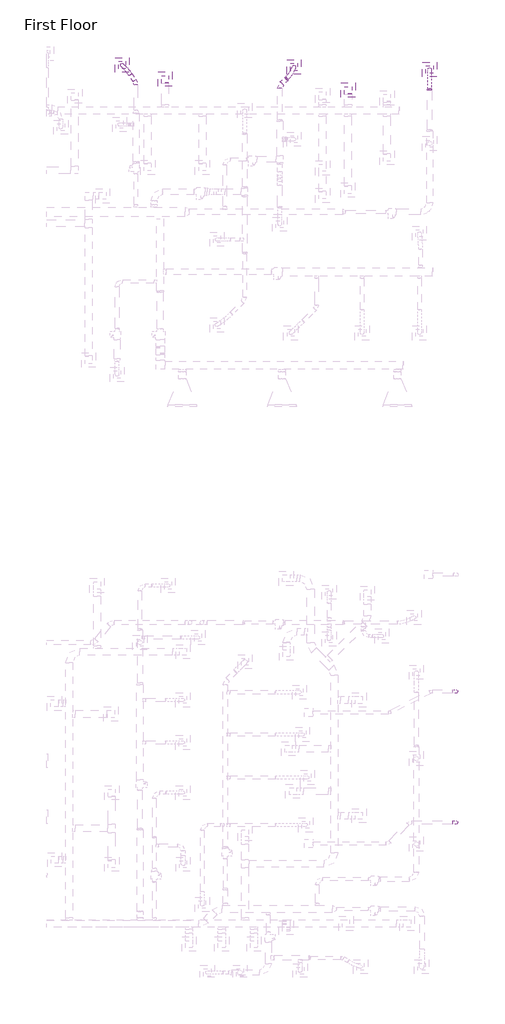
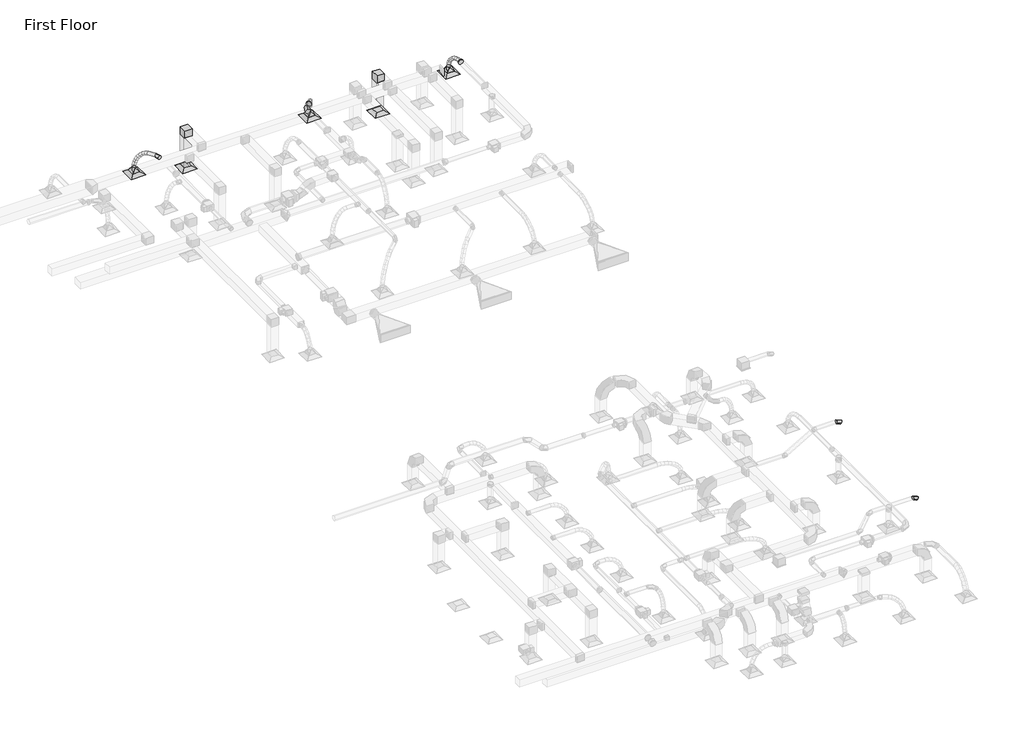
# One storey, part 60 of 61: 11 duct fittings, 7 duct segments, 5 air terminals.
"""IFC4 building model written with IfcOpenShell, lengths in millimetres."""

from ifc_helpers import new_model, si_unit, point, frame, frame_2d, origin, place, context, project, spatial, polyline, circle_curve, ellipse_curve, trimmed, segment, composite_curve, outline, extrude, transform, mapped, element, save
from ifc_brep_helpers import plane_surface, cylinder_surface, advanced_brep
from components import m_exhaust_grill_er_600_x_600_face_300_x_300_connection_ff221211, m_rectangular_elbow_mitered_standard_8eee5933, m_rectangular_to_round_transition_angle_45_degree_8f201c83, m_round_elbow_1_5_d_fa134dda, m_round_elbow_1_5_d_f3829448, m_round_elbow_2_d_e6cff9a0, m_round_transition_angle_45_degree_6d7b59ce

model = new_model("IFC4")

# Units and contexts
model_context = context("Model", 3, world=origin())
ifc_project = project(units=[si_unit("LENGTHUNIT", "METRE", prefix="MILLI")], contexts=[model_context])

# Site, building, storey
site = spatial("IfcSite", under=ifc_project)
building = spatial("IfcBuilding", under=site)
storey = spatial("IfcBuildingStorey", under=building, Name="First Floor", Elevation=0.0)

# Air terminals
placement = place(None, origin())
m_exhaust_grill_er_600_x_600_face_300_x_300_connection_shape = m_exhaust_grill_er_600_x_600_face_300_x_300_connection_ff221211(model_context)
element("IfcAirTerminal", 1, ObjectType="M_Return Register : RR-600 x 600 Face 300 x 300 Connection", at=placement, inside=storey, context=model_context, shape_type="MappedRepresentation", body=[
    mapped(m_exhaust_grill_er_600_x_600_face_300_x_300_connection_shape, transform((-3926.5709793, 48069.2175842, 2680.0), x_axis=(1.0, 0.0, 0.0), y_axis=(0.0, 1.0, 0.0), z_axis=(0.0, 0.0, 1.0))),
])
element("IfcAirTerminal", 2, ObjectType="M_Return Register : RR-600 x 600 Face 300 x 300 Connection", at=placement, inside=storey, context=model_context, shape_type="MappedRepresentation", body=[
    mapped(m_exhaust_grill_er_600_x_600_face_300_x_300_connection_shape, transform((-11624.3125098, 48530.9998671, 2680.0), x_axis=(1.0, 0.0, 0.0), y_axis=(0.0, 1.0, 0.0), z_axis=(0.0, 0.0, 1.0))),
])
element("IfcAirTerminal", 3, ObjectType="M_Supply Diffuser : SD-600 x 600 Face 300 x 300 Connection", at=placement, inside=storey, context=model_context, shape_type="MappedRepresentation", body=[
    mapped(m_exhaust_grill_er_600_x_600_face_300_x_300_connection_shape, transform((-500.5154255, 48936.722982, 2680.0), x_axis=(1.0, 0.0, 0.0), y_axis=(0.0, 1.0, 0.0), z_axis=(0.0, 0.0, 1.0))),
])
element("IfcAirTerminal", 4, ObjectType="M_Supply Diffuser : SD-600 x 600 Face 300 x 300 Connection", at=placement, inside=storey, context=model_context, shape_type="MappedRepresentation", body=[
    mapped(m_exhaust_grill_er_600_x_600_face_300_x_300_connection_shape, transform((-6203.7010885, 49042.3683623, 2680.0), x_axis=(1.0, 0.0, 0.0), y_axis=(0.0, 1.0, 0.0), z_axis=(0.0, 0.0, 1.0))),
])
element("IfcAirTerminal", 5, ObjectType="M_Supply Diffuser : SD-600 x 600 Face 300 x 300 Connection", at=placement, inside=storey, context=model_context, shape_type="MappedRepresentation", body=[
    mapped(m_exhaust_grill_er_600_x_600_face_300_x_300_connection_shape, transform((-13429.6025206, 49124.841699, 2680.0), x_axis=(1.0, 0.0, 0.0), y_axis=(0.0, 1.0, 0.0), z_axis=(0.0, 0.0, 1.0))),
])

# Duct fittings
m_rectangular_elbow_mitered_standard_shape = m_rectangular_elbow_mitered_standard_8eee5933(model_context)
element("IfcDuctFitting", 6, ObjectType="M_Rectangular Elbow - Mitered : Standard", at=placement, inside=storey, context=model_context, shape_type="MappedRepresentation", body=[
    mapped(m_rectangular_elbow_mitered_standard_shape, transform((-3926.5709793, 48069.2175842, 4259.5), x_axis=(0.0, 0.0, 1.0), y_axis=(0.0, -1.0, 0.0), z_axis=(1.0, 0.0, 0.0))),
])
element("IfcDuctFitting", 7, ObjectType="M_Rectangular Elbow - Mitered : Standard", at=placement, inside=storey, context=model_context, shape_type="MappedRepresentation", body=[
    mapped(m_rectangular_elbow_mitered_standard_shape, transform((-11624.3125098, 48530.9998671, 4259.5), x_axis=(0.0, 0.0, 1.0), y_axis=(0.0, -1.0, 0.0), z_axis=(1.0, 0.0, 0.0))),
])
m_rectangular_to_round_transition_angle_45_degree_shape = m_rectangular_to_round_transition_angle_45_degree_8f201c83(model_context)
element("IfcDuctFitting", 8, ObjectType="M_Rectangular to Round Transition - Angle : 45 Degree", at=placement, inside=storey, context=model_context, shape_type="MappedRepresentation", body=[
    mapped(m_rectangular_to_round_transition_angle_45_degree_shape, transform((-500.5154255, 48936.722982, 2781.6), x_axis=(0.0, 0.0, 1.0), y_axis=(1.0, 0.0, 0.0), z_axis=(0.0, 1.0, 0.0))),
])
element("IfcDuctFitting", 9, ObjectType="M_Rectangular to Round Transition - Angle : 45 Degree", at=placement, inside=storey, context=model_context, shape_type="MappedRepresentation", body=[
    mapped(m_rectangular_to_round_transition_angle_45_degree_shape, transform((-6203.7010885, 49042.3683623, 2781.6), x_axis=(0.0, 0.0, 1.0), y_axis=(1.0, 0.0, 0.0), z_axis=(0.0, 1.0, 0.0))),
])
element("IfcDuctFitting", 10, ObjectType="M_Rectangular to Round Transition - Angle : 45 Degree", at=placement, inside=storey, context=model_context, shape_type="MappedRepresentation", body=[
    mapped(m_rectangular_to_round_transition_angle_45_degree_shape, transform((-13429.6025206, 49124.841699, 2781.6), x_axis=(0.0, 0.0, 1.0), y_axis=(1.0, 0.0, 0.0), z_axis=(0.0, 1.0, 0.0))),
])
m_round_elbow_1_5_d_shape = m_round_elbow_1_5_d_fa134dda(model_context)
element("IfcDuctFitting", 11, ObjectType="M_Round Elbow : 1.5 D", at=placement, inside=storey, context=model_context, shape_type="MappedRepresentation", body=[
    mapped(m_round_elbow_1_5_d_shape, transform((563.5965989, 22803.0823669, 2879.6), x_axis=(1.0000000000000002, 0.0, 0.0), y_axis=(0.0, 0.0, -1.0000000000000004), z_axis=(0.0, 1.0000000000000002, 0.0))),
])
element("IfcDuctFitting", 12, ObjectType="M_Round Elbow : 1.5 D", at=placement, inside=storey, context=model_context, shape_type="MappedRepresentation", body=[
    mapped(m_round_elbow_1_5_d_shape, transform((563.5965989, 17303.0823669, 2879.6), x_axis=(1.0000000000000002, 0.0, 0.0), y_axis=(0.0, 0.0, -1.0000000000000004), z_axis=(0.0, 1.0000000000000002, 0.0))),
])
m_round_elbow_1_5_d_2_shape = m_round_elbow_1_5_d_f3829448(model_context)
element("IfcDuctFitting", 13, ObjectType="M_Round Elbow : 1.5 D", at=placement, inside=storey, context=model_context, shape_type="MappedRepresentation", body=[
    mapped(m_round_elbow_1_5_d_2_shape, transform((-6801.5698472, 48261.7292765, 3669.1), x_axis=(-0.7071067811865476, -0.7071067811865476, 0.0), y_axis=(0.7071067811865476, -0.7071067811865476, 0.0), z_axis=(0.0, 0.0, 1.0))),
])
m_round_elbow_2_d_shape = m_round_elbow_2_d_e6cff9a0(model_context)
element("IfcDuctFitting", 14, ObjectType="M_Round Elbow : 2 D", at=placement, inside=storey, context=model_context, shape_type="MappedRepresentation", body=[
    mapped(m_round_elbow_2_d_shape, transform((-12852.4099417, 48392.0581212, 3669.2), x_axis=(0.0, 1.0, 0.0), y_axis=(-1.0, 0.0, 0.0), z_axis=(0.0, 0.0, 1.0))),
])
m_round_transition_angle_45_degree_shape = m_round_transition_angle_45_degree_6d7b59ce(model_context)
element("IfcDuctFitting", 15, ObjectType="M_Round Transition - Angle : 45 Degree", at=placement, inside=storey, context=model_context, shape_type="MappedRepresentation", body=[
    mapped(m_round_transition_angle_45_degree_shape, transform((-500.5154255, 48069.2175842, 3669.1), x_axis=(0.0, 1.0, 0.0), y_axis=(-1.0, 0.0, 0.0), z_axis=(0.0, 0.0, 1.0))),
])
element("IfcDuctFitting", 16, ObjectType="M_Round Transition - Angle : 45 Degree", at=placement, inside=storey, context=model_context, shape_type="MappedRepresentation", body=[
    mapped(m_round_transition_angle_45_degree_shape, transform((-6532.2992565, 48530.9998671, 3669.1), x_axis=(0.7071067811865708, 0.7071067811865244, 0.0), y_axis=(-0.7071067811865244, 0.7071067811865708, 0.0), z_axis=(0.0, 0.0, 1.0))),
])

# Duct segments
element("IfcDuctSegment", 17, ObjectType="Flex - Round", at=placement, inside=storey, context=model_context, shape_type="AdvancedBrep", body=[
    advanced_brep(
    [(-575.5154255, 48129.5729232, 3669.1), (-500.5154255, 48121.0600943, 3594.5846879), (-425.5154255, 48129.5729232, 3669.1), (-500.5154255, 48138.0857522, 3743.6153121), (-575.5154255, 48266.9094216, 3653.4103104), (-500.5154255, 48251.1377364, 3579.7242695), (-425.5154255, 48266.9094216, 3653.4103104), (-500.5154255, 48282.6811068, 3727.0963514), (-575.5154255, 48936.722982, 2962.6660172), (-500.5154255, 49010.8878006, 2973.8275441), (-425.5154255, 48936.722982, 2962.6660172), (-500.5154255, 48862.5581635, 2951.5044903), (-575.5154255, 48406.5290462, 3608.9993323), (-500.5154255, 48377.9312426, 3539.3930936), (-425.5154255, 48406.5290462, 3608.9993323), (-500.5154255, 48435.1268498, 3678.6055709), (-575.5154255, 48542.0841281, 3539.8542015), (-500.5154255, 48502.9435502, 3475.6257141), (-425.5154255, 48542.0841281, 3539.8542015), (-500.5154255, 48581.2247059, 3604.082689), (-575.5154255, 48667.2269982, 3449.9620542), (-500.5154255, 48618.7587348, 3392.4337941), (-425.5154255, 48667.2269982, 3449.9620542), (-500.5154255, 48715.6952617, 3507.4903142), (-575.5154255, 48775.6099877, 3343.3100261), (-500.5154255, 48718.3603682, 3294.4228769), (-425.5154255, 48775.6099877, 3343.3100261), (-500.5154255, 48832.8596072, 3392.1971753), (-575.5154255, 48860.8854274, 3223.8852533), (-500.5154255, 48795.2672989, 3186.7178594), (-425.5154255, 48860.8854274, 3223.8852533), (-500.5154255, 48926.503556, 3261.0526471), (-575.5154255, 48916.7056486, 3095.6748716), (-500.5154255, 48844.0071783, 3074.7699235), (-425.5154255, 48916.7056486, 3095.6748716), (-500.5154255, 48989.4041188, 3116.5798197)],
    [
        (0, 1, circle_curve(frame((-500.5154255, 48129.5729232, 3669.1), z_axis=(0.0, -0.9935374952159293, 0.11350438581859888), x_axis=(-1.0, 0.0, 0.0)), 75.0)),
        (1, 2, circle_curve(frame((-500.5154255, 48129.5729232, 3669.1), z_axis=(0.0, -0.9935374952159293, 0.11350438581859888), x_axis=(-1.0, 0.0, 0.0)), 75.0)),
        (2, 3, circle_curve(frame((-500.5154255, 48129.5729232, 3669.1), z_axis=(0.0, -0.9935374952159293, 0.11350438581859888), x_axis=(-1.0, 0.0, 0.0)), 75.0)),
        (3, 0, circle_curve(frame((-500.5154255, 48129.5729232, 3669.1), z_axis=(0.0, -0.9935374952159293, 0.11350438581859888), x_axis=(-1.0, 0.0, 0.0)), 75.0)),
        (0, 4),
        (4, 5, ellipse_curve(frame((-500.5154255, 48266.9094216, 3653.4103104), z_axis=(0.0, -0.9778518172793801, 0.2092984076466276), x_axis=(0.0, -0.2092984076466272, -0.9778518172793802)), 75.3550176, 75.0)),
        (5, 1),
        (5, 6, ellipse_curve(frame((-500.5154255, 48266.9094216, 3653.4103104), z_axis=(0.0, -0.9778518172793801, 0.2092984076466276), x_axis=(0.0, -0.2092984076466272, -0.9778518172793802)), 75.3550176, 75.0)),
        (6, 2),
        (6, 7, ellipse_curve(frame((-500.5154255, 48266.9094216, 3653.4103104), z_axis=(0.0, -0.9778518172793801, 0.2092984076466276), x_axis=(0.0, -0.2092984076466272, -0.9778518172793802)), 75.3550176, 75.0)),
        (7, 3),
        (7, 4, ellipse_curve(frame((-500.5154255, 48266.9094216, 3653.4103104), z_axis=(0.0, -0.9778518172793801, 0.2092984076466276), x_axis=(0.0, -0.2092984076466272, -0.9778518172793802)), 75.3550176, 75.0)),
        (8, 9, circle_curve(frame((-500.5154255, 48936.722982, 2962.6660172), z_axis=(0.0, 0.14882035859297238, -0.9888642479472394), x_axis=(-1.0, 0.0, 0.0)), 75.0)),
        (9, 10, circle_curve(frame((-500.5154255, 48936.722982, 2962.6660172), z_axis=(0.0, 0.14882035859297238, -0.9888642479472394), x_axis=(-1.0, 0.0, 0.0)), 75.0)),
        (10, 11, circle_curve(frame((-500.5154255, 48936.722982, 2962.6660172), z_axis=(0.0, 0.14882035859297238, -0.9888642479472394), x_axis=(-1.0, 0.0, 0.0)), 75.0)),
        (11, 8, circle_curve(frame((-500.5154255, 48936.722982, 2962.6660172), z_axis=(0.0, 0.14882035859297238, -0.9888642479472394), x_axis=(-1.0, 0.0, 0.0)), 75.0)),
        (4, 12),
        (12, 13, ellipse_curve(frame((-500.5154255, 48406.5290462, 3608.9993323), z_axis=(0.0, -0.9249753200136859, 0.38002717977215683), x_axis=(0.0, -0.3800271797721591, -0.924975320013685)), 75.2519955, 75.0)),
        (13, 5),
        (13, 14, ellipse_curve(frame((-500.5154255, 48406.5290462, 3608.9993323), z_axis=(0.0, -0.9249753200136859, 0.38002717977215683), x_axis=(0.0, -0.3800271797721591, -0.924975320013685)), 75.2519955, 75.0)),
        (14, 6),
        (14, 15, ellipse_curve(frame((-500.5154255, 48406.5290462, 3608.9993323), z_axis=(0.0, -0.9249753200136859, 0.38002717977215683), x_axis=(0.0, -0.3800271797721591, -0.924975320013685)), 75.2519955, 75.0)),
        (15, 7),
        (15, 12, ellipse_curve(frame((-500.5154255, 48406.5290462, 3608.9993323), z_axis=(0.0, -0.9249753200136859, 0.38002717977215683), x_axis=(0.0, -0.3800271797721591, -0.924975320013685)), 75.2519955, 75.0)),
        (12, 16),
        (16, 17, ellipse_curve(frame((-500.5154255, 48542.0841281, 3539.8542015), z_axis=(0.0, -0.8539328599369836, 0.5203831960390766), x_axis=(0.0, -0.5203831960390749, -0.8539328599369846)), 75.214915, 75.0)),
        (17, 13),
        (17, 18, ellipse_curve(frame((-500.5154255, 48542.0841281, 3539.8542015), z_axis=(0.0, -0.8539328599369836, 0.5203831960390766), x_axis=(0.0, -0.5203831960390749, -0.8539328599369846)), 75.214915, 75.0)),
        (18, 14),
        (18, 19, ellipse_curve(frame((-500.5154255, 48542.0841281, 3539.8542015), z_axis=(0.0, -0.8539328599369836, 0.5203831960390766), x_axis=(0.0, -0.5203831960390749, -0.8539328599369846)), 75.214915, 75.0)),
        (19, 15),
        (19, 16, ellipse_curve(frame((-500.5154255, 48542.0841281, 3539.8542015), z_axis=(0.0, -0.8539328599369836, 0.5203831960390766), x_axis=(0.0, -0.5203831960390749, -0.8539328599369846)), 75.214915, 75.0)),
        (16, 20),
        (20, 21, ellipse_curve(frame((-500.5154255, 48667.2269982, 3449.9620542), z_axis=(0.0, -0.7647578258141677, 0.6443178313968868), x_axis=(0.0, -0.6443178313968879, -0.7647578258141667)), 75.2241535, 75.0)),
        (21, 17),
        (21, 22, ellipse_curve(frame((-500.5154255, 48667.2269982, 3449.9620542), z_axis=(0.0, -0.7647578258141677, 0.6443178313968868), x_axis=(0.0, -0.6443178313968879, -0.7647578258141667)), 75.2241535, 75.0)),
        (22, 18),
        (22, 23, ellipse_curve(frame((-500.5154255, 48667.2269982, 3449.9620542), z_axis=(0.0, -0.7647578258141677, 0.6443178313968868), x_axis=(0.0, -0.6443178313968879, -0.7647578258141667)), 75.2241535, 75.0)),
        (23, 19),
        (23, 20, ellipse_curve(frame((-500.5154255, 48667.2269982, 3449.9620542), z_axis=(0.0, -0.7647578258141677, 0.6443178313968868), x_axis=(0.0, -0.6443178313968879, -0.7647578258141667)), 75.2241535, 75.0)),
        (20, 24),
        (24, 25, ellipse_curve(frame((-500.5154255, 48775.6099877, 3343.3100261), z_axis=(0.0, -0.6493816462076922, 0.760462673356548), x_axis=(0.0, -0.7604626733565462, -0.6493816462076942)), 75.2826161, 75.0)),
        (25, 21),
        (25, 26, ellipse_curve(frame((-500.5154255, 48775.6099877, 3343.3100261), z_axis=(0.0, -0.6493816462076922, 0.760462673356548), x_axis=(0.0, -0.7604626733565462, -0.6493816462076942)), 75.2826161, 75.0)),
        (26, 22),
        (26, 27, ellipse_curve(frame((-500.5154255, 48775.6099877, 3343.3100261), z_axis=(0.0, -0.6493816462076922, 0.760462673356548), x_axis=(0.0, -0.7604626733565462, -0.6493816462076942)), 75.2826161, 75.0)),
        (27, 23),
        (27, 24, ellipse_curve(frame((-500.5154255, 48775.6099877, 3343.3100261), z_axis=(0.0, -0.6493816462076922, 0.760462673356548), x_axis=(0.0, -0.7604626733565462, -0.6493816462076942)), 75.2826161, 75.0)),
        (24, 28),
        (28, 29, ellipse_curve(frame((-500.5154255, 48860.8854274, 3223.8852533), z_axis=(0.0, -0.49284983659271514, 0.8701143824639), x_axis=(0.0, -0.8701143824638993, -0.4928498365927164)), 75.4132214, 75.0)),
        (29, 25),
        (29, 30, ellipse_curve(frame((-500.5154255, 48860.8854274, 3223.8852533), z_axis=(0.0, -0.49284983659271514, 0.8701143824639), x_axis=(0.0, -0.8701143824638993, -0.4928498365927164)), 75.4132214, 75.0)),
        (30, 26),
        (30, 31, ellipse_curve(frame((-500.5154255, 48860.8854274, 3223.8852533), z_axis=(0.0, -0.49284983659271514, 0.8701143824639), x_axis=(0.0, -0.8701143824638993, -0.4928498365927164)), 75.4132214, 75.0)),
        (31, 27),
        (31, 28, ellipse_curve(frame((-500.5154255, 48860.8854274, 3223.8852533), z_axis=(0.0, -0.49284983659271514, 0.8701143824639), x_axis=(0.0, -0.8701143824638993, -0.4928498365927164)), 75.4132214, 75.0)),
        (28, 32),
        (32, 33, ellipse_curve(frame((-500.5154255, 48916.7056486, 3095.6748716), z_axis=(0.0, -0.27635795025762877, 0.9610547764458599), x_axis=(0.0, -0.9610547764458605, -0.27635795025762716)), 75.6444607, 75.0)),
        (33, 29),
        (33, 34, ellipse_curve(frame((-500.5154255, 48916.7056486, 3095.6748716), z_axis=(0.0, -0.27635795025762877, 0.9610547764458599), x_axis=(0.0, -0.9610547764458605, -0.27635795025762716)), 75.6444607, 75.0)),
        (34, 30),
        (34, 35, ellipse_curve(frame((-500.5154255, 48916.7056486, 3095.6748716), z_axis=(0.0, -0.27635795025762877, 0.9610547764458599), x_axis=(0.0, -0.9610547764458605, -0.27635795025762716)), 75.6444607, 75.0)),
        (35, 31),
        (35, 32, ellipse_curve(frame((-500.5154255, 48916.7056486, 3095.6748716), z_axis=(0.0, -0.27635795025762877, 0.9610547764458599), x_axis=(0.0, -0.9610547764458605, -0.27635795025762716)), 75.6444607, 75.0)),
        (32, 8),
        (11, 33),
        (10, 34),
        (9, 35),
    ],
    [
        plane_surface(frame((-500.5154255, 48138.0857522, 3743.6153121), z_axis=(0.0, -0.9935374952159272, 0.1135043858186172), x_axis=(1.0, 0.0, 0.0))),
        cylinder_surface(frame((-500.5154255, 48129.5729232, 3669.1), z_axis=(0.0, -0.9935374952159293, 0.11350438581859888), x_axis=(-1.0, 0.0, 0.0)), 75.0),
        plane_surface(frame((-500.5154255, 49010.8878006, 2973.8275441), z_axis=(0.0, 0.1488203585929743, -0.988864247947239), x_axis=(1.0, 0.0, 0.0))),
        cylinder_surface(frame((-500.5154255, 48266.9094216, 3653.4103104), z_axis=(0.0, -0.9529522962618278, 0.3031203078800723), x_axis=(-1.0, 0.0, 0.0)), 75.0),
        cylinder_surface(frame((-500.5154255, 48406.5290462, 3608.9993323), z_axis=(0.0, -0.8908034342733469, 0.4543888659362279), x_axis=(-1.0, 0.0, 0.0)), 75.0),
        cylinder_surface(frame((-500.5154255, 48542.0841281, 3539.8542015), z_axis=(0.0, -0.81218232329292, 0.5834036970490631), x_axis=(-1.0, 0.0, 0.0)), 75.0),
        cylinder_surface(frame((-500.5154255, 48667.2269982, 3449.9620542), z_axis=(0.0, -0.71277566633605, 0.7013920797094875), x_axis=(-1.0, 0.0, 0.0)), 75.0),
        cylinder_surface(frame((-500.5154255, 48775.6099877, 3343.3100261), z_axis=(0.0, -0.5811119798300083, 0.8138236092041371), x_axis=(-1.0, 0.0, 0.0)), 75.0),
        cylinder_surface(frame((-500.5154255, 48860.8854274, 3223.8852533), z_axis=(0.0, -0.39918662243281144, 0.9168696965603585), x_axis=(-1.0, 0.0, 0.0)), 75.0),
        cylinder_surface(frame((-500.5154255, 48916.7056486, 3095.6748716), z_axis=(0.0, -0.14882035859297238, 0.9888642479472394), x_axis=(-1.0, 0.0, 0.0)), 75.0),
    ],
    [
        (0, [[1, 2, 3, 4]]),
        (1, [[-1, 5, 6, 7]]),
        (1, [[-2, -7, 8, 9]]),
        (1, [[-3, -9, 10, 11]]),
        (1, [[-4, -11, 12, -5]]),
        (2, [[13, 14, 15, 16]]),
        (3, [[-6, 17, 18, 19]]),
        (3, [[-8, -19, 20, 21]]),
        (3, [[-10, -21, 22, 23]]),
        (3, [[-12, -23, 24, -17]]),
        (4, [[-18, 25, 26, 27]]),
        (4, [[-20, -27, 28, 29]]),
        (4, [[-22, -29, 30, 31]]),
        (4, [[-24, -31, 32, -25]]),
        (5, [[-26, 33, 34, 35]]),
        (5, [[-28, -35, 36, 37]]),
        (5, [[-30, -37, 38, 39]]),
        (5, [[-32, -39, 40, -33]]),
        (6, [[-34, 41, 42, 43]]),
        (6, [[-36, -43, 44, 45]]),
        (6, [[-38, -45, 46, 47]]),
        (6, [[-40, -47, 48, -41]]),
        (7, [[-42, 49, 50, 51]]),
        (7, [[-44, -51, 52, 53]]),
        (7, [[-46, -53, 54, 55]]),
        (7, [[-48, -55, 56, -49]]),
        (8, [[-50, 57, 58, 59]]),
        (8, [[-52, -59, 60, 61]]),
        (8, [[-54, -61, 62, 63]]),
        (8, [[-56, -63, 64, -57]]),
        (9, [[-58, 65, -16, 66]]),
        (9, [[-60, -66, -15, 67]]),
        (9, [[-62, -67, -14, 68]]),
        (9, [[-64, -68, -13, -65]]),
    ],
),
])
element("IfcDuctSegment", 18, ObjectType="Flex - Round", at=placement, inside=storey, context=model_context, shape_type="AdvancedBrep", body=[
    advanced_brep(
    [(-6545.2947974, 48623.9318265, 3669.1), (-6497.8863457, 48564.5215889, 3595.1212031), (-6433.9483766, 48523.4232469, 3669.1), (-6481.3568282, 48582.8334844, 3743.0787969), (-6474.5837423, 48702.2676554, 3651.505113), (-6432.4322385, 48637.0336132, 3578.8343918), (-6358.9965973, 48606.4570773, 3650.4499023), (-6401.1481011, 48671.6911195, 3723.1206236), (-6265.9078415, 49084.2073875, 2964.8605217), (-6161.8698842, 49104.1735472, 2970.1003608), (-6141.4943355, 49000.529337, 2960.4715126), (-6245.5322928, 48980.5631774, 2955.2316735), (-6416.616207, 48779.9722109, 3603.5371022), (-6382.2766218, 48704.2664166, 3537.3307267), (-6295.3463827, 48691.7791737, 3597.7794865), (-6329.6859679, 48767.4849681, 3663.985862), (-6368.4644851, 48856.5991073, 3529.1739832), (-6339.1583971, 48772.8831889, 3470.7410899), (-6244.5004272, 48772.6935753, 3519.2555276), (-6273.8065152, 48856.4094937, 3577.6884209), (-6330.0759611, 48928.1008031, 3433.9504871), (-6304.0867401, 48838.2069546, 3383.7451484), (-6205.0863336, 48846.1054766, 3421.4880856), (-6231.0755546, 48935.9993251, 3471.6934243), (-6301.1452105, 48990.4881285, 3323.801142), (-6277.5009321, 48895.5375601, 3282.5238087), (-6175.9845143, 48908.8617007, 3310.6874231), (-6199.6287926, 49003.8122691, 3351.9647564), (-6281.175868, 49039.9145186, 3204.6698546), (-6259.2867338, 48940.6197693, 3173.8632005), (-6156.266322, 48957.6664657, 3193.0544244), (-6178.1554562, 49056.9612151, 3223.8610784), (-6269.5906835, 49072.570507, 3082.3258028), (-6248.9716954, 48969.695506, 3064.9323851), (-6145.0839947, 48989.1868913, 3074.9647023), (-6165.7029828, 49092.0618924, 3092.35812)],
    [
        (0, 1, circle_curve(frame((-6489.621587, 48573.6775367, 3669.1), z_axis=(-0.6609336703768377, -0.7322021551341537, 0.16445877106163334), x_axis=(-0.7423094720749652, 0.6700571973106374, 0.0)), 75.0)),
        (1, 2, circle_curve(frame((-6489.621587, 48573.6775367, 3669.1), z_axis=(-0.6609336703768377, -0.7322021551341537, 0.16445877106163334), x_axis=(-0.7423094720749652, 0.6700571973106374, 0.0)), 75.0)),
        (2, 3, circle_curve(frame((-6489.621587, 48573.6775367, 3669.1), z_axis=(-0.6609336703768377, -0.7322021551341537, 0.16445877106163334), x_axis=(-0.7423094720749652, 0.6700571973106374, 0.0)), 75.0)),
        (3, 0, circle_curve(frame((-6489.621587, 48573.6775367, 3669.1), z_axis=(-0.6609336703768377, -0.7322021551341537, 0.16445877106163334), x_axis=(-0.7423094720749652, 0.6700571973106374, 0.0)), 75.0)),
        (0, 4),
        (4, 5, ellipse_curve(frame((-6416.7901698, 48654.3623663, 3650.9775077), z_axis=(-0.6055638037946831, -0.7339478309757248, 0.30759236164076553), x_axis=(-0.4084382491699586, -0.04508211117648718, -0.9116719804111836)), 75.8938817, 75.0)),
        (5, 1),
        (5, 6, ellipse_curve(frame((-6416.7901698, 48654.3623663, 3650.9775077), z_axis=(-0.6055638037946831, -0.7339478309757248, 0.30759236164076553), x_axis=(-0.4084382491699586, -0.04508211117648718, -0.9116719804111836)), 75.8938817, 75.0)),
        (6, 2),
        (6, 7, ellipse_curve(frame((-6416.7901698, 48654.3623663, 3650.9775077), z_axis=(-0.6055638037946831, -0.7339478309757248, 0.30759236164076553), x_axis=(-0.4084382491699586, -0.04508211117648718, -0.9116719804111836)), 75.8938817, 75.0)),
        (7, 3),
        (7, 4, ellipse_curve(frame((-6416.7901698, 48654.3623663, 3650.9775077), z_axis=(-0.6055638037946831, -0.7339478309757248, 0.30759236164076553), x_axis=(-0.4084382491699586, -0.04508211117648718, -0.9116719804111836)), 75.8938817, 75.0)),
        (8, 9, circle_curve(frame((-6203.7010885, 49042.3683623, 2962.6660172), z_axis=(0.031184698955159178, 0.0985360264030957, -0.9946447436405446), x_axis=(-0.8294233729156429, 0.5578536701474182, 0.0292600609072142)), 75.0)),
        (9, 10, circle_curve(frame((-6203.7010885, 49042.3683623, 2962.6660172), z_axis=(0.031184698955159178, 0.0985360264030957, -0.9946447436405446), x_axis=(-0.8294233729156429, 0.5578536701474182, 0.0292600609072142)), 75.0)),
        (10, 11, circle_curve(frame((-6203.7010885, 49042.3683623, 2962.6660172), z_axis=(0.031184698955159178, 0.0985360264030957, -0.9946447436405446), x_axis=(-0.8294233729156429, 0.5578536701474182, 0.0292600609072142)), 75.0)),
        (11, 8, circle_curve(frame((-6203.7010885, 49042.3683623, 2962.6660172), z_axis=(0.031184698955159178, 0.0985360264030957, -0.9946447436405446), x_axis=(-0.8294233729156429, 0.5578536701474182, 0.0292600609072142)), 75.0)),
        (4, 12),
        (12, 13, ellipse_curve(frame((-6355.9812949, 48735.8756923, 3600.6582943), z_axis=(-0.4768776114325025, -0.6911803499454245, 0.5430077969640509), x_axis=(-0.5259833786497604, -0.27055789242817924, -0.806312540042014)), 75.5337965, 75.0)),
        (13, 5),
        (13, 14, ellipse_curve(frame((-6355.9812949, 48735.8756923, 3600.6582943), z_axis=(-0.4768776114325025, -0.6911803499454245, 0.5430077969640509), x_axis=(-0.5259833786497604, -0.27055789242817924, -0.806312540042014)), 75.5337965, 75.0)),
        (14, 6),
        (14, 15, ellipse_curve(frame((-6355.9812949, 48735.8756923, 3600.6582943), z_axis=(-0.4768776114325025, -0.6911803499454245, 0.5430077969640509), x_axis=(-0.5259833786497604, -0.27055789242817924, -0.806312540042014)), 75.5337965, 75.0)),
        (15, 7),
        (15, 12, ellipse_curve(frame((-6355.9812949, 48735.8756923, 3600.6582943), z_axis=(-0.4768776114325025, -0.6911803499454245, 0.5430077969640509), x_axis=(-0.5259833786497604, -0.27055789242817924, -0.806312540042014)), 75.5337965, 75.0)),
        (12, 16),
        (16, 17, ellipse_curve(frame((-6306.4824561, 48814.6463413, 3524.2147554), z_axis=(-0.3604753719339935, -0.615431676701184, 0.7009289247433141), x_axis=(-0.5684191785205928, -0.45086700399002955, -0.6881995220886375)), 75.317404, 75.0)),
        (17, 13),
        (17, 18, ellipse_curve(frame((-6306.4824561, 48814.6463413, 3524.2147554), z_axis=(-0.3604753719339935, -0.615431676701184, 0.7009289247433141), x_axis=(-0.5684191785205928, -0.45086700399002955, -0.6881995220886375)), 75.317404, 75.0)),
        (18, 14),
        (18, 19, ellipse_curve(frame((-6306.4824561, 48814.6463413, 3524.2147554), z_axis=(-0.3604753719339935, -0.615431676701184, 0.7009289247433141), x_axis=(-0.5684191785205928, -0.45086700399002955, -0.6881995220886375)), 75.317404, 75.0)),
        (19, 15),
        (19, 16, ellipse_curve(frame((-6306.4824561, 48814.6463413, 3524.2147554), z_axis=(-0.3604753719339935, -0.615431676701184, 0.7009289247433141), x_axis=(-0.5684191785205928, -0.45086700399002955, -0.6881995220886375)), 75.317404, 75.0)),
        (16, 20),
        (20, 21, ellipse_curve(frame((-6267.5811474, 48887.1031399, 3427.7192864), z_axis=(-0.26557353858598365, -0.5274810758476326, 0.8069909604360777), x_axis=(-0.5547084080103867, -0.6010140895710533, -0.5753960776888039)), 75.2160757, 75.0)),
        (21, 17),
        (21, 22, ellipse_curve(frame((-6267.5811474, 48887.1031399, 3427.7192864), z_axis=(-0.26557353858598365, -0.5274810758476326, 0.8069909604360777), x_axis=(-0.5547084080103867, -0.6010140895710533, -0.5753960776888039)), 75.2160757, 75.0)),
        (22, 18),
        (22, 23, ellipse_curve(frame((-6267.5811474, 48887.1031399, 3427.7192864), z_axis=(-0.26557353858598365, -0.5274810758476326, 0.8069909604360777), x_axis=(-0.5547084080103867, -0.6010140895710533, -0.5753960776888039)), 75.2160757, 75.0)),
        (23, 19),
        (23, 20, ellipse_curve(frame((-6267.5811474, 48887.1031399, 3427.7192864), z_axis=(-0.26557353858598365, -0.5274810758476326, 0.8069909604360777), x_axis=(-0.5547084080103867, -0.6010140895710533, -0.5753960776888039)), 75.2160757, 75.0)),
        (20, 24),
        (24, 25, ellipse_curve(frame((-6238.5648624, 48949.6749146, 3317.2442826), z_axis=(-0.18835669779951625, -0.43061811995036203, 0.8826606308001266), x_axis=(-0.5012554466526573, -0.7307189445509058, -0.4634574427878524)), 75.1823968, 75.0)),
        (25, 21),
        (25, 26, ellipse_curve(frame((-6238.5648624, 48949.6749146, 3317.2442826), z_axis=(-0.18835669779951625, -0.43061811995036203, 0.8826606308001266), x_axis=(-0.5012554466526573, -0.7307189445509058, -0.4634574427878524)), 75.1823968, 75.0)),
        (26, 22),
        (26, 27, ellipse_curve(frame((-6238.5648624, 48949.6749146, 3317.2442826), z_axis=(-0.18835669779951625, -0.43061811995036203, 0.8826606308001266), x_axis=(-0.5012554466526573, -0.7307189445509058, -0.4634574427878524)), 75.1823968, 75.0)),
        (27, 23),
        (27, 24, ellipse_curve(frame((-6238.5648624, 48949.6749146, 3317.2442826), z_axis=(-0.18835669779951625, -0.43061811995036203, 0.8826606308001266), x_axis=(-0.5012554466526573, -0.7307189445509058, -0.4634574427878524)), 75.1823968, 75.0)),
        (24, 28),
        (28, 29, ellipse_curve(frame((-6218.721095, 48998.7904922, 3198.8621395), z_axis=(-0.12238098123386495, -0.31860364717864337, 0.9399545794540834), x_axis=(-0.4258505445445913, -0.8386048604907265, -0.3396957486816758)), 75.198835, 75.0)),
        (29, 25),
        (29, 30, ellipse_curve(frame((-6218.721095, 48998.7904922, 3198.8621395), z_axis=(-0.12238098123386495, -0.31860364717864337, 0.9399545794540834), x_axis=(-0.4258505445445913, -0.8386048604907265, -0.3396957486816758)), 75.198835, 75.0)),
        (30, 26),
        (30, 31, ellipse_curve(frame((-6218.721095, 48998.7904922, 3198.8621395), z_axis=(-0.12238098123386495, -0.31860364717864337, 0.9399545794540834), x_axis=(-0.4258505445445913, -0.8386048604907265, -0.3396957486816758)), 75.198835, 75.0)),
        (31, 27),
        (31, 28, ellipse_curve(frame((-6218.721095, 48998.7904922, 3198.8621395), z_axis=(-0.12238098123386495, -0.31860364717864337, 0.9399545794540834), x_axis=(-0.4258505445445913, -0.8386048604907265, -0.3396957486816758)), 75.198835, 75.0)),
        (28, 32),
        (32, 33, ellipse_curve(frame((-6207.3373391, 49030.8786992, 3078.6452525), z_axis=(-0.06137556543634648, -0.1783402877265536, 0.9820528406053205), x_axis=(-0.34772275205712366, -0.9184489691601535, -0.18852156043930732)), 75.2799951, 75.0)),
        (33, 29),
        (33, 34, ellipse_curve(frame((-6207.3373391, 49030.8786992, 3078.6452525), z_axis=(-0.06137556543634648, -0.1783402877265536, 0.9820528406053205), x_axis=(-0.34772275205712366, -0.9184489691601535, -0.18852156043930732)), 75.2799951, 75.0)),
        (34, 30),
        (34, 35, ellipse_curve(frame((-6207.3373391, 49030.8786992, 3078.6452525), z_axis=(-0.06137556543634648, -0.1783402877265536, 0.9820528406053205), x_axis=(-0.34772275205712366, -0.9184489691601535, -0.18852156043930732)), 75.2799951, 75.0)),
        (35, 31),
        (35, 32, ellipse_curve(frame((-6207.3373391, 49030.8786992, 3078.6452525), z_axis=(-0.06137556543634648, -0.1783402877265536, 0.9820528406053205), x_axis=(-0.34772275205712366, -0.9184489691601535, -0.18852156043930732)), 75.2799951, 75.0)),
        (32, 8),
        (11, 33),
        (10, 34),
        (9, 35),
    ],
    [
        plane_surface(frame((-6489.621587, 48590.1136765, 3742.2768632), z_axis=(-0.660933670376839, -0.7322021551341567, 0.16445877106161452), x_axis=(0.7504443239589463, -0.6448673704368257, 0.1448426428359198))),
        cylinder_surface(frame((-6489.621587, 48573.6775367, 3669.1), z_axis=(-0.6609336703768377, -0.7322021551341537, 0.16445877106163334), x_axis=(-0.7423094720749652, 0.6700571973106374, 0.0)), 75.0),
        plane_surface(frame((-6203.7010885, 49117.0030174, 2970.0598152), z_axis=(0.031184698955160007, 0.09853602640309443, -0.9946447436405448), x_axis=(0.9995136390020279, -0.0030743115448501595, 0.0310327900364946))),
        cylinder_surface(frame((-6416.7901698, 48654.3623663, 3650.9775077), z_axis=(-0.5359292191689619, -0.7184045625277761, 0.44348027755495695), x_axis=(-0.7935053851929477, 0.6080073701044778, 0.026004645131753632)), 75.0),
        cylinder_surface(frame((-6355.9812949, 48735.8756923, 3600.6582943), z_axis=(-0.41108582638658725, -0.6541870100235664, 0.6348604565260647), x_axis=(-0.8199406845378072, 0.5696923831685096, 0.056105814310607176)), 75.0),
        cylinder_surface(frame((-6306.4824561, 48814.6463413, 3524.2147554), z_axis=(-0.3068266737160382, -0.5714892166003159, 0.7610896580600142), x_axis=(-0.831268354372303, 0.5503529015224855, 0.07813198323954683)), 75.0),
        cylinder_surface(frame((-6267.5811474, 48887.1031399, 3427.7192864), z_axis=(-0.22279455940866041, -0.48044230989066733, 0.8482557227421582), x_axis=(-0.8347134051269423, 0.5435103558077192, 0.08860036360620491)), 75.0),
        cylinder_surface(frame((-6238.5648624, 48949.6749146, 3317.2442826), z_axis=(-0.1530049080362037, -0.37870452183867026, 0.9127827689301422), x_axis=(-0.83419259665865, 0.5447010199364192, 0.08615979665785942)), 75.0),
        cylinder_surface(frame((-6218.721095, 48998.7904922, 3198.8621395), z_axis=(-0.09110987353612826, -0.2568179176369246, 0.9621556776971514), x_axis=(-0.8318595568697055, 0.5507747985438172, 0.06824074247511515)), 75.0),
        cylinder_surface(frame((-6207.3373391, 49030.8786992, 3078.6452525), z_axis=(-0.031184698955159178, -0.0985360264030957, 0.9946447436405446), x_axis=(-0.8294233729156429, 0.5578536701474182, 0.0292600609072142)), 75.0),
    ],
    [
        (0, [[1, 2, 3, 4]]),
        (1, [[-1, 5, 6, 7]]),
        (1, [[-2, -7, 8, 9]]),
        (1, [[-3, -9, 10, 11]]),
        (1, [[-4, -11, 12, -5]]),
        (2, [[13, 14, 15, 16]]),
        (3, [[-6, 17, 18, 19]]),
        (3, [[-8, -19, 20, 21]]),
        (3, [[-10, -21, 22, 23]]),
        (3, [[-12, -23, 24, -17]]),
        (4, [[-18, 25, 26, 27]]),
        (4, [[-20, -27, 28, 29]]),
        (4, [[-22, -29, 30, 31]]),
        (4, [[-24, -31, 32, -25]]),
        (5, [[-26, 33, 34, 35]]),
        (5, [[-28, -35, 36, 37]]),
        (5, [[-30, -37, 38, 39]]),
        (5, [[-32, -39, 40, -33]]),
        (6, [[-34, 41, 42, 43]]),
        (6, [[-36, -43, 44, 45]]),
        (6, [[-38, -45, 46, 47]]),
        (6, [[-40, -47, 48, -41]]),
        (7, [[-42, 49, 50, 51]]),
        (7, [[-44, -51, 52, 53]]),
        (7, [[-46, -53, 54, 55]]),
        (7, [[-48, -55, 56, -49]]),
        (8, [[-50, 57, 58, 59]]),
        (8, [[-52, -59, 60, 61]]),
        (8, [[-54, -61, 62, 63]]),
        (8, [[-56, -63, 64, -57]]),
        (9, [[-58, 65, -16, 66]]),
        (9, [[-60, -66, -15, 67]]),
        (9, [[-62, -67, -14, 68]]),
        (9, [[-64, -68, -13, -65]]),
    ],
),
])
element("IfcDuctSegment", 19, ObjectType="Flex - Round", at=placement, inside=storey, context=model_context, shape_type="AdvancedBrep", body=[
    advanced_brep(
    [(-13142.3615688, 48675.4221874, 3669.2), (-13074.4330825, 48709.5984296, 3595.2560671), (-13021.3194637, 48764.0156905, 3669.2), (-13089.24795, 48729.8394483, 3743.1439329), (-13205.1501107, 48761.2079057, 3651.1688096), (-13131.3809807, 48787.4042872, 3578.9021534), (-13085.6411806, 48851.8961304, 3650.7285228), (-13159.4103106, 48825.6997489, 3722.995179), (-13487.4420978, 49077.1054458, 2963.5789385), (-13477.0648255, 49182.4841408, 2969.7143162), (-13371.7629433, 49172.5779523, 2961.7530958), (-13382.1402156, 49067.1992573, 2955.6177181), (-13266.1551109, 48838.1644385, 3601.5188725), (-13182.3873439, 48851.7477485, 3537.3897737), (-13149.0619812, 48931.900145, 3599.1124461), (-13232.8297482, 48918.316835, 3663.2415449), (-13324.1609252, 48906.5123465, 3525.5587494), (-13233.2735596, 48911.7066755, 3470.7529503), (-13208.401202, 49001.819198, 3521.4061925), (-13299.2885676, 48996.6248689, 3576.2119917), (-13376.8037596, 48964.9816754, 3429.239574), (-13280.8694966, 48964.5705178, 3383.667947), (-13261.6263291, 49060.9352676, 3424.0216118), (-13357.5605921, 49061.3464252, 3469.5932388), (-13421.7473824, 49012.3830038, 3318.6825139), (-13322.0564848, 49008.009783, 3282.3518527), (-13306.6772862, 49108.4497996, 3313.2005198), (-13406.3681838, 49112.8230204, 3349.5311809), (-13456.7039511, 49047.6070205, 3200.0182184), (-13354.0811952, 49040.2795102, 3173.6401044), (-13341.4456082, 49143.4841294, 3195.1752503), (-13444.0683641, 49150.8116398, 3221.5533643), (-13479.4008713, 49069.5755477, 3079.3085425), (-13374.5583846, 49060.0995426, 3064.7356856), (-13363.8075814, 49165.128459, 3076.246932), (-13468.6500681, 49174.6044641, 3090.8197889)],
    [
        (0, 1, circle_curve(frame((-13081.8405162, 48719.7189389, 3669.2), z_axis=(0.5823068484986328, -0.795584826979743, 0.16722295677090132), x_axis=(-0.8069473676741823, -0.5906233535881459, 0.0)), 75.0)),
        (1, 2, circle_curve(frame((-13081.8405162, 48719.7189389, 3669.2), z_axis=(0.5823068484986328, -0.795584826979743, 0.16722295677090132), x_axis=(-0.8069473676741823, -0.5906233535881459, 0.0)), 75.0)),
        (2, 3, circle_curve(frame((-13081.8405162, 48719.7189389, 3669.2), z_axis=(0.5823068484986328, -0.795584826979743, 0.16722295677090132), x_axis=(-0.8069473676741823, -0.5906233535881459, 0.0)), 75.0)),
        (3, 0, circle_curve(frame((-13081.8405162, 48719.7189389, 3669.2), z_axis=(0.5823068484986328, -0.795584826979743, 0.16722295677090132), x_axis=(-0.8069473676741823, -0.5906233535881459, 0.0)), 75.0)),
        (0, 4),
        (4, 5, ellipse_curve(frame((-13145.3956456, 48806.552018, 3650.9486662), z_axis=(0.5748994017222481, -0.7560838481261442, 0.31277450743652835), x_axis=(0.09272556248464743, -0.31959484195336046, -0.9430064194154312)), 75.8648767, 75.0)),
        (5, 1),
        (5, 6, ellipse_curve(frame((-13145.3956456, 48806.552018, 3650.9486662), z_axis=(0.5748994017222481, -0.7560838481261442, 0.31277450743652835), x_axis=(0.09272556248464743, -0.31959484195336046, -0.9430064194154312)), 75.8648767, 75.0)),
        (6, 2),
        (6, 7, ellipse_curve(frame((-13145.3956456, 48806.552018, 3650.9486662), z_axis=(0.5748994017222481, -0.7560838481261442, 0.31277450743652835), x_axis=(0.09272556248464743, -0.31959484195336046, -0.9430064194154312)), 75.8648767, 75.0)),
        (7, 3),
        (7, 4, ellipse_curve(frame((-13145.3956456, 48806.552018, 3650.9486662), z_axis=(0.5748994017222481, -0.7560838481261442, 0.31277450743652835), x_axis=(0.09272556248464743, -0.31959484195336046, -0.9430064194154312)), 75.8648767, 75.0)),
        (8, 9, circle_curve(frame((-13429.6025206, 49124.841699, 2962.6660172), z_axis=(-0.06917020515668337, 0.06477178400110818, -0.9954999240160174), x_axis=(-0.7711943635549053, -0.6364833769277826, 0.012172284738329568)), 75.0)),
        (9, 10, circle_curve(frame((-13429.6025206, 49124.841699, 2962.6660172), z_axis=(-0.06917020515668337, 0.06477178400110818, -0.9954999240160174), x_axis=(-0.7711943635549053, -0.6364833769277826, 0.012172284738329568)), 75.0)),
        (10, 11, circle_curve(frame((-13429.6025206, 49124.841699, 2962.6660172), z_axis=(-0.06917020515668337, 0.06477178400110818, -0.9954999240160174), x_axis=(-0.7711943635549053, -0.6364833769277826, 0.012172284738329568)), 75.0)),
        (11, 8, circle_curve(frame((-13429.6025206, 49124.841699, 2962.6660172), z_axis=(-0.06917020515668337, 0.06477178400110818, -0.9954999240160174), x_axis=(-0.7711943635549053, -0.6364833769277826, 0.012172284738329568)), 75.0)),
        (4, 12),
        (12, 13, ellipse_curve(frame((-13207.6085461, 48885.0322918, 3600.3156593), z_axis=(0.5277116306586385, -0.6450198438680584, 0.5526932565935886), x_axis=(0.2573389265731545, -0.498687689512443, -0.8276999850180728)), 75.5273499, 75.0)),
        (13, 5),
        (13, 14, ellipse_curve(frame((-13207.6085461, 48885.0322918, 3600.3156593), z_axis=(0.5277116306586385, -0.6450198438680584, 0.5526932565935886), x_axis=(0.2573389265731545, -0.498687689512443, -0.8276999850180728)), 75.5273499, 75.0)),
        (14, 6),
        (14, 15, ellipse_curve(frame((-13207.6085461, 48885.0322918, 3600.3156593), z_axis=(0.5277116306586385, -0.6450198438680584, 0.5526932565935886), x_axis=(0.2573389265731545, -0.498687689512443, -0.8276999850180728)), 75.5273499, 75.0)),
        (15, 7),
        (15, 12, ellipse_curve(frame((-13207.6085461, 48885.0322918, 3600.3156593), z_axis=(0.5277116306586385, -0.6450198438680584, 0.5526932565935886), x_axis=(0.2573389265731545, -0.498687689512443, -0.8276999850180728)), 75.5273499, 75.0)),
        (12, 16),
        (16, 17, ellipse_curve(frame((-13266.2810636, 48954.1657722, 3523.482471), z_axis=(0.46042540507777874, -0.5281456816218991, 0.7134918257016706), x_axis=(0.38295070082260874, -0.6069422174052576, -0.6963978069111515)), 75.3187285, 75.0)),
        (17, 13),
        (17, 18, ellipse_curve(frame((-13266.2810636, 48954.1657722, 3523.482471), z_axis=(0.46042540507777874, -0.5281456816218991, 0.7134918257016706), x_axis=(0.38295070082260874, -0.6069422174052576, -0.6963978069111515)), 75.3187285, 75.0)),
        (18, 14),
        (18, 19, ellipse_curve(frame((-13266.2810636, 48954.1657722, 3523.482471), z_axis=(0.46042540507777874, -0.5281456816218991, 0.7134918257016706), x_axis=(0.38295070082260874, -0.6069422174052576, -0.6963978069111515)), 75.3187285, 75.0)),
        (19, 15),
        (19, 16, ellipse_curve(frame((-13266.2810636, 48954.1657722, 3523.482471), z_axis=(0.46042540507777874, -0.5281456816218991, 0.7134918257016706), x_axis=(0.38295070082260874, -0.6069422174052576, -0.6963978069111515)), 75.3187285, 75.0)),
        (16, 20),
        (20, 21, ellipse_curve(frame((-13319.2150443, 49012.9584715, 3426.6305929), z_axis=(0.3877584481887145, -0.4208480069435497, 0.8200794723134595), x_axis=(0.48271340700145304, -0.6652223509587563, -0.5696200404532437)), 75.2170453, 75.0)),
        (21, 17),
        (21, 22, ellipse_curve(frame((-13319.2150443, 49012.9584715, 3426.6305929), z_axis=(0.3877584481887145, -0.4208480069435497, 0.8200794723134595), x_axis=(0.48271340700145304, -0.6652223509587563, -0.5696200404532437)), 75.2170453, 75.0)),
        (22, 18),
        (22, 23, ellipse_curve(frame((-13319.2150443, 49012.9584715, 3426.6305929), z_axis=(0.3877584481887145, -0.4208480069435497, 0.8200794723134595), x_axis=(0.48271340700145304, -0.6652223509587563, -0.5696200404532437)), 75.2170453, 75.0)),
        (23, 19),
        (23, 20, ellipse_curve(frame((-13319.2150443, 49012.9584715, 3426.6305929), z_axis=(0.3877584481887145, -0.4208480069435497, 0.8200794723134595), x_axis=(0.48271340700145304, -0.6652223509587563, -0.5696200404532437)), 75.2170453, 75.0)),
        (20, 24),
        (24, 25, ellipse_curve(frame((-13364.2123343, 49060.4164017, 3315.9415168), z_axis=(0.3116258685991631, -0.32226040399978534, 0.893889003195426), x_axis=(0.5675646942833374, -0.6913513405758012, -0.4471058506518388)), 75.1787005, 75.0)),
        (25, 21),
        (25, 26, ellipse_curve(frame((-13364.2123343, 49060.4164017, 3315.9415168), z_axis=(0.3116258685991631, -0.32226040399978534, 0.893889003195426), x_axis=(0.5675646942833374, -0.6913513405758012, -0.4471058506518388)), 75.1787005, 75.0)),
        (26, 22),
        (26, 27, ellipse_curve(frame((-13364.2123343, 49060.4164017, 3315.9415168), z_axis=(0.3116258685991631, -0.32226040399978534, 0.893889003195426), x_axis=(0.5675646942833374, -0.6913513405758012, -0.4471058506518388)), 75.1787005, 75.0)),
        (27, 23),
        (27, 24, ellipse_curve(frame((-13364.2123343, 49060.4164017, 3315.9415168), z_axis=(0.3116258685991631, -0.32226040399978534, 0.893889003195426), x_axis=(0.5675646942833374, -0.6913513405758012, -0.4471058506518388)), 75.1787005, 75.0)),
        (24, 28),
        (28, 29, ellipse_curve(frame((-13399.0747796, 49095.545575, 3197.5967344), z_axis=(0.22739884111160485, -0.2255150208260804, 0.9473292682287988), x_axis=(0.6411029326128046, -0.6975795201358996, -0.31995287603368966)), 75.1849099, 75.0)),
        (29, 25),
        (29, 30, ellipse_curve(frame((-13399.0747796, 49095.545575, 3197.5967344), z_axis=(0.22739884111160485, -0.2255150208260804, 0.9473292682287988), x_axis=(0.6411029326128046, -0.6975795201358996, -0.31995287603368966)), 75.1849099, 75.0)),
        (30, 26),
        (30, 31, ellipse_curve(frame((-13399.0747796, 49095.545575, 3197.5967344), z_axis=(0.22739884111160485, -0.2255150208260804, 0.9473292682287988), x_axis=(0.6411029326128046, -0.6975795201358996, -0.31995287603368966)), 75.1849099, 75.0)),
        (31, 27),
        (31, 28, ellipse_curve(frame((-13399.0747796, 49095.545575, 3197.5967344), z_axis=(0.22739884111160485, -0.2255150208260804, 0.9473292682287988), x_axis=(0.6411029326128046, -0.6975795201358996, -0.31995287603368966)), 75.1849099, 75.0)),
        (28, 32),
        (32, 33, ellipse_curve(frame((-13421.6042264, 49117.3520034, 3077.7777373), z_axis=(0.12594525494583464, -0.12081055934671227, 0.9846535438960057), x_axis=(0.7007160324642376, -0.6917700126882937, -0.17450298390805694)), 75.2438425, 75.0)),
        (33, 29),
        (33, 34, ellipse_curve(frame((-13421.6042264, 49117.3520034, 3077.7777373), z_axis=(0.12594525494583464, -0.12081055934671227, 0.9846535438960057), x_axis=(0.7007160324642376, -0.6917700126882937, -0.17450298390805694)), 75.2438425, 75.0)),
        (34, 30),
        (34, 35, ellipse_curve(frame((-13421.6042264, 49117.3520034, 3077.7777373), z_axis=(0.12594525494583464, -0.12081055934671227, 0.9846535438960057), x_axis=(0.7007160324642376, -0.6917700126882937, -0.17450298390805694)), 75.2438425, 75.0)),
        (35, 31),
        (35, 32, ellipse_curve(frame((-13421.6042264, 49117.3520034, 3077.7777373), z_axis=(0.12594525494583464, -0.12081055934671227, 0.9846535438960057), x_axis=(0.7007160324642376, -0.6917700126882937, -0.17450298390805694)), 75.2438425, 75.0)),
        (32, 8),
        (11, 33),
        (10, 34),
        (9, 35),
    ],
    [
        plane_surface(frame((-13081.8405162, 48735.1459976, 3742.5962251), z_axis=(0.582306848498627, -0.7955848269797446, 0.1672229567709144), x_axis=(0.8129690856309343, 0.569854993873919, -0.11977709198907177))),
        cylinder_surface(frame((-13081.8405162, 48719.7189389, 3669.2), z_axis=(0.5823068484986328, -0.795584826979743, 0.16722295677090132), x_axis=(-0.8069473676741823, -0.5906233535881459, 0.0)), 75.0),
        plane_surface(frame((-13429.6025206, 49199.6834488, 2967.5355642), z_axis=(-0.06917020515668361, 0.06477178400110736, -0.9954999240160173), x_axis=(0.9976048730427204, 0.004491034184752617, -0.06902425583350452))),
        cylinder_surface(frame((-13145.3956456, 48806.552018, 3650.9486662), z_axis=(0.5543839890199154, -0.6993438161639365, 0.4511946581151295), x_axis=(-0.7869951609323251, -0.6168636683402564, 0.010855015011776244)), 75.0),
        cylinder_surface(frame((-13207.6085461, 48885.0322918, 3600.3156593), z_axis=(0.49367005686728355, -0.5816885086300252, 0.6464737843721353), x_axis=(-0.7749446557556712, -0.6315929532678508, 0.023475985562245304)), 75.0),
        cylinder_surface(frame((-13266.2810636, 48954.1657722, 3523.482471), z_axis=(0.4232839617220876, -0.4701329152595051, 0.7744712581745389), x_axis=(-0.7689764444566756, -0.6384389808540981, 0.0327245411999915)), 75.0),
        cylinder_surface(frame((-13319.2150443, 49012.9584715, 3426.6305929), z_axis=(0.3499951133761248, -0.3691343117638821, 0.8609548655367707), x_axis=(-0.7669177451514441, -0.640673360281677, 0.03707853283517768)), 75.0),
        cylinder_surface(frame((-13364.2123343, 49060.4164017, 3315.9415168), z_axis=(0.2717751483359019, -0.27385446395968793, 0.9225735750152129), x_axis=(-0.7673018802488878, -0.6402761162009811, 0.03597665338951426)), 75.0),
        cylinder_surface(frame((-13399.0747796, 49095.545575, 3197.5967344), z_axis=(0.18190400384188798, -0.1760663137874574, 0.9674252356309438), x_axis=(-0.7691165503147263, -0.6384764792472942, 0.028416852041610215)), 75.0),
        cylinder_surface(frame((-13421.6042264, 49117.3520034, 3077.7777373), z_axis=(0.06917020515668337, -0.06477178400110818, 0.9954999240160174), x_axis=(-0.7711943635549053, -0.6364833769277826, 0.012172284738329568)), 75.0),
    ],
    [
        (0, [[1, 2, 3, 4]]),
        (1, [[-1, 5, 6, 7]]),
        (1, [[-2, -7, 8, 9]]),
        (1, [[-3, -9, 10, 11]]),
        (1, [[-4, -11, 12, -5]]),
        (2, [[13, 14, 15, 16]]),
        (3, [[-6, 17, 18, 19]]),
        (3, [[-8, -19, 20, 21]]),
        (3, [[-10, -21, 22, 23]]),
        (3, [[-12, -23, 24, -17]]),
        (4, [[-18, 25, 26, 27]]),
        (4, [[-20, -27, 28, 29]]),
        (4, [[-22, -29, 30, 31]]),
        (4, [[-24, -31, 32, -25]]),
        (5, [[-26, 33, 34, 35]]),
        (5, [[-28, -35, 36, 37]]),
        (5, [[-30, -37, 38, 39]]),
        (5, [[-32, -39, 40, -33]]),
        (6, [[-34, 41, 42, 43]]),
        (6, [[-36, -43, 44, 45]]),
        (6, [[-38, -45, 46, 47]]),
        (6, [[-40, -47, 48, -41]]),
        (7, [[-42, 49, 50, 51]]),
        (7, [[-44, -51, 52, 53]]),
        (7, [[-46, -53, 54, 55]]),
        (7, [[-48, -55, 56, -49]]),
        (8, [[-50, 57, 58, 59]]),
        (8, [[-52, -59, 60, 61]]),
        (8, [[-54, -61, 62, 63]]),
        (8, [[-56, -63, 64, -57]]),
        (9, [[-58, 65, -16, 66]]),
        (9, [[-60, -66, -15, 67]]),
        (9, [[-62, -67, -14, 68]]),
        (9, [[-64, -68, -13, -65]]),
    ],
),
])
element("IfcDuctSegment", 20, ObjectType="Mitered Elbows / Taps", at=placement, inside=storey, context=model_context, shape_type="SweptSolid", body=[
    extrude(outline(polyline([(-3776.5709793, 47919.2175842), (-4076.5709793, 47919.2175842), (-4076.5709793, 48219.2175842), (-3776.5709793, 48219.2175842), (-3776.5709793, 47919.2175842)])), frame((0.0, 0.0, 2781.6), z_axis=(0.0, 0.0, 1.0), x_axis=(1.0, 0.0, 0.0)), (0.0, 0.0, 1.0), 1302.9),
])
element("IfcDuctSegment", 21, ObjectType="Mitered Elbows / Taps", at=placement, inside=storey, context=model_context, shape_type="SweptSolid", body=[
    extrude(outline(polyline([(-11474.3125098, 48380.9998671), (-11774.3125098, 48380.9998671), (-11774.3125098, 48680.9998671), (-11474.3125098, 48680.9998671), (-11474.3125098, 48380.9998671)])), frame((0.0, 0.0, 2781.6), z_axis=(0.0, 0.0, 1.0), x_axis=(1.0, 0.0, 0.0)), (0.0, 0.0, 1.0), 1302.9),
])
element("IfcDuctSegment", 22, ObjectType="Taps", at=placement, inside=storey, context=model_context, shape_type="SweptSolid", body=[
    extrude(outline(composite_curve([segment(trimmed(circle_curve(frame_2d((0.0, 100.0)), 100.0), [point((100.0, 100.0))], [point((0.0, 0.0))], False, "CARTESIAN"), True, "CONTINUOUS"), segment(trimmed(circle_curve(frame_2d((0.0, 100.0)), 100.0), [point((0.0, 0.0))], [point((-100.0, 100.0))], False, "CARTESIAN"), True, "CONTINUOUS"), segment(trimmed(circle_curve(frame_2d((0.0, 100.0)), 100.0), [point((-100.0, 100.0))], [point((0.0, 200.0))], False, "CARTESIAN"), True, "CONTINUOUS"), segment(trimmed(circle_curve(frame_2d((0.0, 100.0)), 100.0), [point((0.0, 200.0))], [point((100.0, 100.0))], False, "CARTESIAN"), True, "CONTINUOUS")], self_intersect=False)), frame((-6713.7018815, 48349.5972421, 3769.1), z_axis=(0.707106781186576, 0.7071067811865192, 0.0), x_axis=(0.7071067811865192, -0.707106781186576, 0.0)), (0.0, 0.0, 1.0), 256.5420525),
])
element("IfcDuctSegment", 23, ObjectType="Taps / Short Radius", at=placement, inside=storey, context=model_context, shape_type="SweptSolid", body=[
    extrude(outline(composite_curve([segment(trimmed(circle_curve(frame_2d((0.0, 75.0)), 75.0), [point((75.0, 75.0))], [point((0.0, 0.0))], False, "CARTESIAN"), True, "CONTINUOUS"), segment(trimmed(circle_curve(frame_2d((0.0, 75.0)), 75.0), [point((0.0, 0.0))], [point((-75.0, 75.0))], False, "CARTESIAN"), True, "CONTINUOUS"), segment(trimmed(circle_curve(frame_2d((0.0, 75.0)), 75.0), [point((-75.0, 75.0))], [point((0.0, 150.0))], False, "CARTESIAN"), True, "CONTINUOUS"), segment(trimmed(circle_curve(frame_2d((0.0, 75.0)), 75.0), [point((0.0, 150.0))], [point((75.0, 75.0))], False, "CARTESIAN"), True, "CONTINUOUS")], self_intersect=False)), frame((-12906.6643284, 48469.5414155, 3744.2), z_axis=(-0.5735764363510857, 0.8191520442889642, 0.0), x_axis=(0.8191520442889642, 0.5735764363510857, 0.0)), (0.0, 0.0, 1.0), 305.4103633),
])

save(model, "model.ifc")
